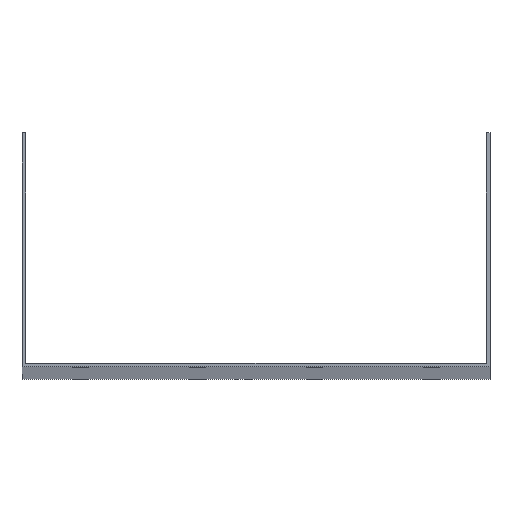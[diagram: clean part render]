
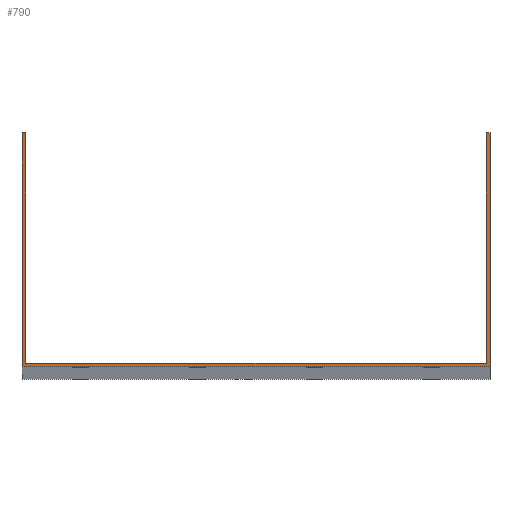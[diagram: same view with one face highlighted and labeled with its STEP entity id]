
A CAD part, top view. The second image highlights one B-rep face of the part: STEP entity #790.
In plain terms, the highlighted planar face has unit normal (0, 0, 1).
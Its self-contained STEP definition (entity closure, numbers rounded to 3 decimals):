
#50 = VECTOR ( 'NONE', #2694, 1000. ) ;
#105 = LINE ( 'NONE', #2183, #4577 ) ;
#286 = ORIENTED_EDGE ( 'NONE', *, *, #1750, .F. ) ;
#422 = VERTEX_POINT ( 'NONE', #1437 ) ;
#474 = EDGE_CURVE ( 'NONE', #2803, #4035, #3251, .T. ) ;
#476 = EDGE_CURVE ( 'NONE', #2249, #3607, #1860, .T. ) ;
#516 = VECTOR ( 'NONE', #782, 1000. ) ;
#580 = VECTOR ( 'NONE', #1023, 1000. ) ;
#603 = ORIENTED_EDGE ( 'NONE', *, *, #476, .F. ) ;
#693 = VECTOR ( 'NONE', #792, 1000. ) ;
#716 = DIRECTION ( 'NONE',  ( 0., 1., 0. ) ) ;
#782 = DIRECTION ( 'NONE',  ( -1., 0., 0. ) ) ;
#790 = ADVANCED_FACE ( 'NONE', ( #4358 ), #2518, .T. ) ;
#792 = DIRECTION ( 'NONE',  ( 0., 1., 0. ) ) ;
#950 = VERTEX_POINT ( 'NONE', #2651 ) ;
#951 = LINE ( 'NONE', #3048, #50 ) ;
#976 = CARTESIAN_POINT ( 'NONE',  ( 100., 100., 1500. ) ) ;
#997 = CARTESIAN_POINT ( 'NONE',  ( -100., 0., 1500. ) ) ;
#1007 = CARTESIAN_POINT ( 'NONE',  ( -100., 0., 1500. ) ) ;
#1023 = DIRECTION ( 'NONE',  ( 0., -1., 0. ) ) ;
#1124 = CARTESIAN_POINT ( 'NONE',  ( 98.5, 1.5, 1500. ) ) ;
#1126 = DIRECTION ( 'NONE',  ( 0., 0., 1. ) ) ;
#1424 = LINE ( 'NONE', #976, #1682 ) ;
#1437 = CARTESIAN_POINT ( 'NONE',  ( -100., 100., 1500. ) ) ;
#1538 = CARTESIAN_POINT ( 'NONE',  ( 100., 100., 1500. ) ) ;
#1541 = CARTESIAN_POINT ( 'NONE',  ( 98.5, 100., 1500. ) ) ;
#1544 = EDGE_CURVE ( 'NONE', #3083, #4247, #2086, .T. ) ;
#1682 = VECTOR ( 'NONE', #716, 1000. ) ;
#1717 = ORIENTED_EDGE ( 'NONE', *, *, #2841, .T. ) ;
#1723 = ORIENTED_EDGE ( 'NONE', *, *, #2664, .T. ) ;
#1750 = EDGE_CURVE ( 'NONE', #3607, #4035, #3682, .T. ) ;
#1860 = LINE ( 'NONE', #3302, #4367 ) ;
#2086 = LINE ( 'NONE', #1007, #2957 ) ;
#2148 = DIRECTION ( 'NONE',  ( 1., 0., 0. ) ) ;
#2183 = CARTESIAN_POINT ( 'NONE',  ( -100., 100., 1500. ) ) ;
#2249 = VERTEX_POINT ( 'NONE', #3880 ) ;
#2282 = ORIENTED_EDGE ( 'NONE', *, *, #4529, .T. ) ;
#2486 = CARTESIAN_POINT ( 'NONE',  ( -100., 100., 1500. ) ) ;
#2487 = DIRECTION ( 'NONE',  ( 1., 0., 0. ) ) ;
#2509 = LINE ( 'NONE', #2486, #580 ) ;
#2518 = PLANE ( 'NONE',  #3839 ) ;
#2568 = CARTESIAN_POINT ( 'NONE',  ( -100., 100., 1500. ) ) ;
#2600 = EDGE_CURVE ( 'NONE', #950, #2249, #951, .T. ) ;
#2651 = CARTESIAN_POINT ( 'NONE',  ( -98.5, 100., 1500. ) ) ;
#2664 = EDGE_CURVE ( 'NONE', #422, #3083, #2509, .T. ) ;
#2694 = DIRECTION ( 'NONE',  ( 0., -1., 0. ) ) ;
#2764 = ORIENTED_EDGE ( 'NONE', *, *, #474, .T. ) ;
#2803 = VERTEX_POINT ( 'NONE', #1538 ) ;
#2841 = EDGE_CURVE ( 'NONE', #950, #422, #105, .T. ) ;
#2903 = EDGE_LOOP ( 'NONE', ( #3075, #1717, #1723, #3456, #2282, #2764, #286, #603 ) ) ;
#2934 = DIRECTION ( 'NONE',  ( -1., 0., 0. ) ) ;
#2957 = VECTOR ( 'NONE', #2487, 1000. ) ;
#3048 = CARTESIAN_POINT ( 'NONE',  ( -98.5, 100., 1500. ) ) ;
#3075 = ORIENTED_EDGE ( 'NONE', *, *, #2600, .F. ) ;
#3083 = VERTEX_POINT ( 'NONE', #997 ) ;
#3251 = LINE ( 'NONE', #2568, #516 ) ;
#3302 = CARTESIAN_POINT ( 'NONE',  ( -100., 1.5, 1500. ) ) ;
#3456 = ORIENTED_EDGE ( 'NONE', *, *, #1544, .T. ) ;
#3503 = CARTESIAN_POINT ( 'NONE',  ( 98.5, 100., 1500. ) ) ;
#3607 = VERTEX_POINT ( 'NONE', #1124 ) ;
#3682 = LINE ( 'NONE', #1541, #693 ) ;
#3839 = AXIS2_PLACEMENT_3D ( 'NONE', #4288, #1126, #3932 ) ;
#3880 = CARTESIAN_POINT ( 'NONE',  ( -98.5, 1.5, 1500. ) ) ;
#3932 = DIRECTION ( 'NONE',  ( 1., 0., 0. ) ) ;
#4035 = VERTEX_POINT ( 'NONE', #3503 ) ;
#4064 = CARTESIAN_POINT ( 'NONE',  ( 100., 0., 1500. ) ) ;
#4247 = VERTEX_POINT ( 'NONE', #4064 ) ;
#4288 = CARTESIAN_POINT ( 'NONE',  ( 0., 0., 1500. ) ) ;
#4358 = FACE_OUTER_BOUND ( 'NONE', #2903, .T. ) ;
#4367 = VECTOR ( 'NONE', #2148, 1000. ) ;
#4529 = EDGE_CURVE ( 'NONE', #4247, #2803, #1424, .T. ) ;
#4577 = VECTOR ( 'NONE', #2934, 1000. ) ;
